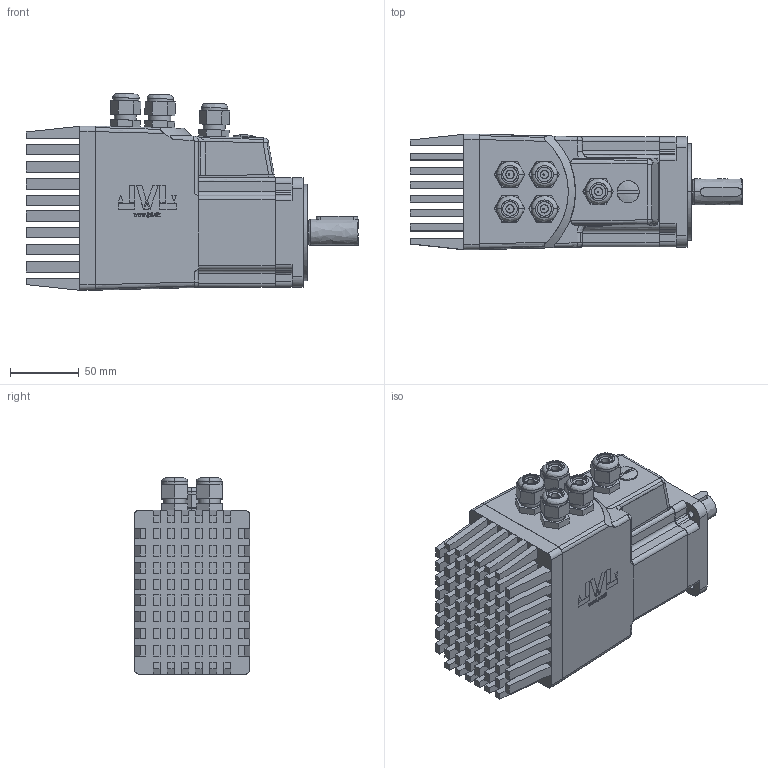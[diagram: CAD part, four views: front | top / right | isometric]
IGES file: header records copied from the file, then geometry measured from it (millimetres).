
Start section: Comment
Global section: file name: MAC800-D3.igs; native system:  By UGS Corp.; preprocessor: XPlus GENERIC/IGES 3.0; author: Author; organization: Title; date: 20120702.145716; units: millimetre
Bounding box: 241.5 x 84.07 x 143.19 mm (x, y, z)
Surface area: 245117.9 mm2 (no closed solid volume)
Topology: 0 solids, 0 shells, 1327 faces, 6917 edges, 6903 vertices
Faces by surface type: bspline 1327
